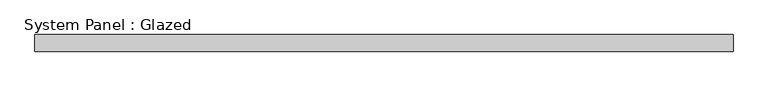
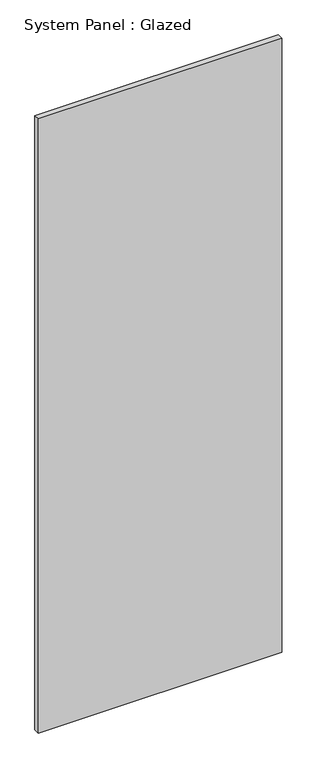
"""IFC4 building model written with IfcOpenShell, lengths in millimetres: plate geometry, System Panel : Glazed."""

from ifc_helpers import new_model, si_unit, origin, origin_with_axes, place, context, project, spatial, polyline, outline, extrude, source, transform, mapped, element, save


def system_panel_glazed_037db34a(model_context):
    return source(origin(), model_context, "Body", "SweptSolid", [
        extrude(outline(polyline([(525.0000002, -44.45), (-525.0000002, -44.45), (-525.0000002, -19.05), (525.0000002, -19.05), (525.0000002, -44.45)])), origin_with_axes(), (0.0, 0.0, 1.0), 2800.0),
    ])


if __name__ == "__main__":
    model = new_model("IFC4")
    model_context = context("Model", 3, world=origin())
    ifc_project = project(units=[si_unit("LENGTHUNIT", "METRE", prefix="MILLI")], contexts=[model_context])
    site = spatial("IfcSite", under=ifc_project)
    building = spatial("IfcBuilding", under=site)
    placement = place(None, origin())
    system_panel_glazed_shape = system_panel_glazed_037db34a(model_context)
    element("IfcPlate", 1, ObjectType="System Panel : Glazed", at=placement, inside=building, context=model_context, shape_type="MappedRepresentation", body=[
        mapped(system_panel_glazed_shape, transform((0.0, 0.0, 0.0), x_axis=(1.0, 0.0, 0.0), y_axis=(0.0, 1.0, 0.0), z_axis=(0.0, 0.0, 1.0))),
    ])
    save(model, "model.ifc")
